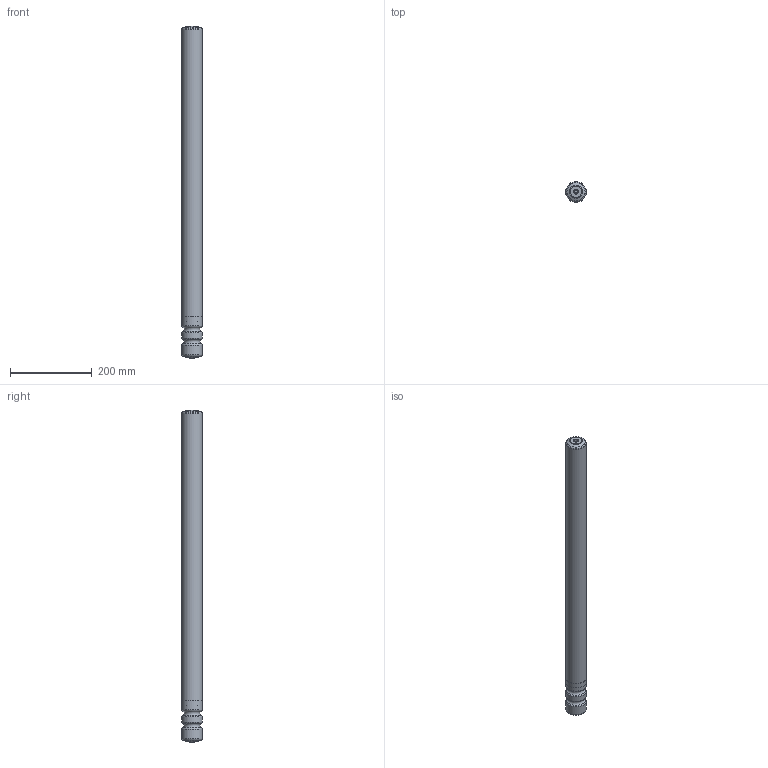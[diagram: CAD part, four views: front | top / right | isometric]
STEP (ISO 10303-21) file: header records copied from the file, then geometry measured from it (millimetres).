
FILE_DESCRIPTION(/* description */ ('Roller 2xgroove Ø50z1,5 galvanized'),/* implementation_level */ '2;1');
FILE_NAME(/* name */ 'RO9200500810.stp',/* time_stamp */ '2024-02-08T08:04:41+01:00',/* author */ ('r.biemans'),/* organization */ ('BCK Holland b.v.'),/* preprocessor_version */ 'ST-DEVELOPER v19.2',/* originating_system */ 'Autodesk Inventor 2023',/* authorisation */ '');
FILE_SCHEMA (('AUTOMOTIVE_DESIGN { 1 0 10303 214 3 1 1 }'));
Length unit declared in the file: millimetre
Products named in the file (1): RO9200500810
Bounding box: 50 x 50 x 810 mm (x, y, z)
Volume: 215512.3 mm3; surface area: 244564.8 mm2
Topology: 1 solids, 1 shells, 31 faces, 61 edges, 38 vertices
Faces by surface type: cylinder 10, torus 10, plane 8, cone 3
Full cylindrical faces by diameter (mm): 6.647 x2, 12 x2, 49 x1, 49.5 x1, 50 x4
Entity records: 881 total; most frequent: DIRECTION 171, CARTESIAN_POINT 130, ORIENTED_EDGE 120, AXIS2_PLACEMENT_3D 79, EDGE_CURVE 60, CIRCLE 47, EDGE_LOOP 38, VERTEX_POINT 38
